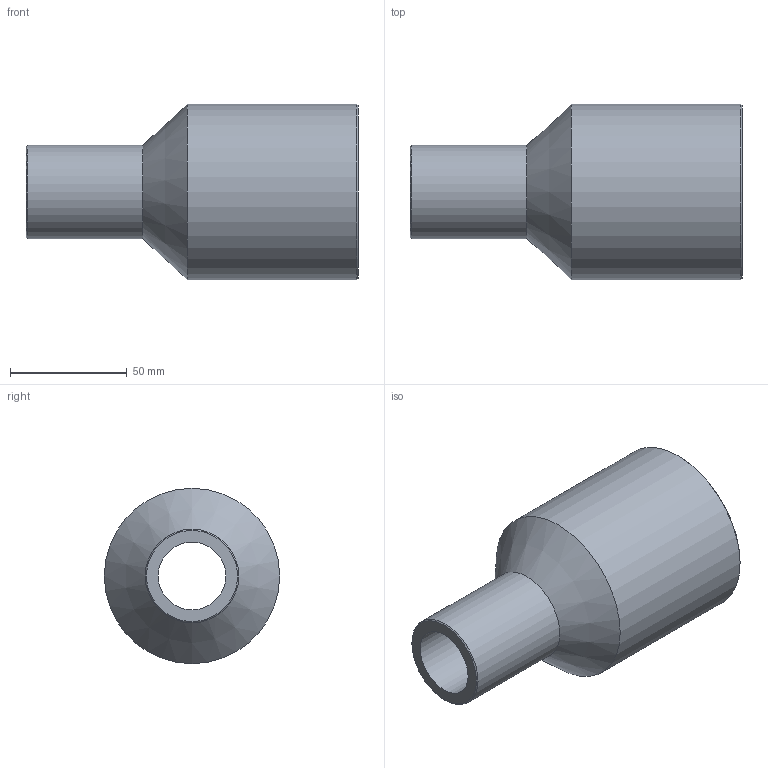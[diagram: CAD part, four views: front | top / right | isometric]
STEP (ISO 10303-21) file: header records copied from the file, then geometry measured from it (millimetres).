
FILE_DESCRIPTION(/* description */ ('Unknown'),/* implementation_level */ '2;1');
FILE_NAME(/* name */ 'RP075040H',/* time_stamp */ '2021-09-16T11:32:05+02:00',/* author */ ('Unknown'),/* organization */ ('Unknown'),/* preprocessor_version */ 'ST-DEVELOPER v16.7',/* originating_system */ 'Solid Edge',/* authorisation */ 'Unknown');
FILE_SCHEMA (('AUTOMOTIVE_DESIGN {1 0 10303 214 3 1 1}'));
Length unit declared in the file: millimetre
Products named in the file (1): RP075040H
Bounding box: 142 x 75 x 75 mm (x, y, z)
Volume: 212779.5 mm3; surface area: 50419.6 mm2
Topology: 1 solids, 1 shells, 10 faces, 19 edges, 11 vertices
Faces by surface type: cylinder 4, cone 4, plane 2
Full cylindrical faces by diameter (mm): 29 x1, 40 x1, 54.4 x1, 75 x1
Entity records: 238 total; most frequent: DIRECTION 42, CARTESIAN_POINT 31, AXIS2_PLACEMENT_3D 21, ORIENTED_EDGE 20, EDGE_LOOP 20, FACE_BOUND 20, EDGE_CURVE 10, VERTEX_POINT 10
